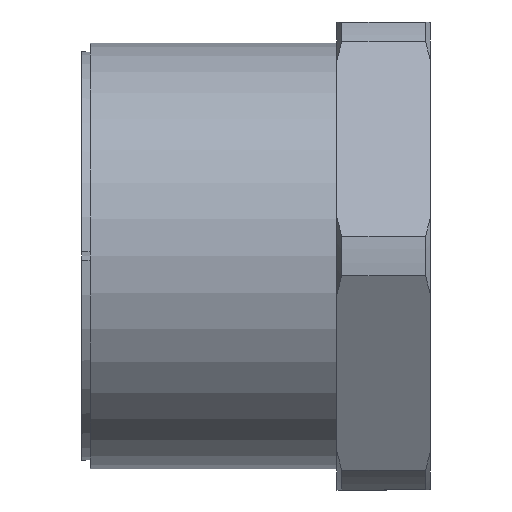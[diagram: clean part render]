
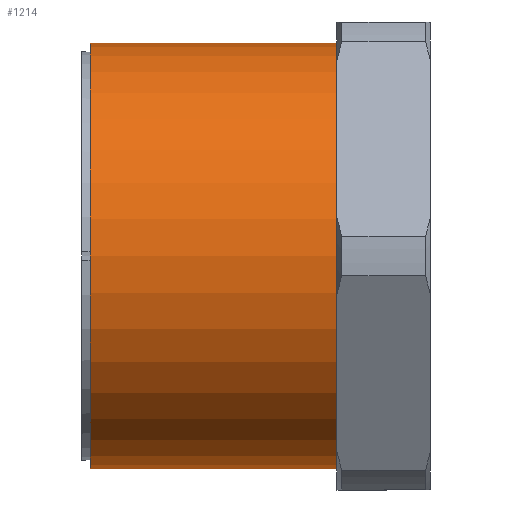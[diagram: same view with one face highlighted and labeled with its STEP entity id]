
A CAD part, front view. The second image highlights one B-rep face of the part: STEP entity #1214.
In plain terms, the highlighted cylindrical face has radius 25 mm (diameter 50 mm), a partial arc.
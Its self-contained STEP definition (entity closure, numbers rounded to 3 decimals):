
#98 = CYLINDRICAL_SURFACE ( 'NONE', #1307, 25. ) ;
#115 = FACE_OUTER_BOUND ( 'NONE', #1670, .T. ) ;
#181 = VERTEX_POINT ( 'NONE', #809 ) ;
#209 = VERTEX_POINT ( 'NONE', #312 ) ;
#217 = VERTEX_POINT ( 'NONE', #329 ) ;
#233 = VERTEX_POINT ( 'NONE', #301 ) ;
#295 = DIRECTION ( 'NONE',  ( 0., 0., 1. ) ) ;
#301 = CARTESIAN_POINT ( 'NONE',  ( 0., 0., -25. ) ) ;
#312 = CARTESIAN_POINT ( 'NONE',  ( 0., 0., 25. ) ) ;
#329 = CARTESIAN_POINT ( 'NONE',  ( 29., 0., -25. ) ) ;
#379 = DIRECTION ( 'NONE',  ( -1., 0., 0. ) ) ;
#458 = CARTESIAN_POINT ( 'NONE',  ( 0., 0., 0. ) ) ;
#460 = DIRECTION ( 'NONE',  ( -1., 0., 0. ) ) ;
#586 = DIRECTION ( 'NONE',  ( 0., 0., 1. ) ) ;
#587 = DIRECTION ( 'NONE',  ( -1., 0., 0. ) ) ;
#592 = CARTESIAN_POINT ( 'NONE',  ( 0., 0., -25. ) ) ;
#634 = DIRECTION ( 'NONE',  ( 0., 0., 1. ) ) ;
#639 = CARTESIAN_POINT ( 'NONE',  ( 0., 0., 0. ) ) ;
#662 = CARTESIAN_POINT ( 'NONE',  ( 0., 0., 25. ) ) ;
#667 = DIRECTION ( 'NONE',  ( -1., 0., 0. ) ) ;
#672 = CARTESIAN_POINT ( 'NONE',  ( 29., 0., 0. ) ) ;
#809 = CARTESIAN_POINT ( 'NONE',  ( 29., 0., 25. ) ) ;
#854 = DIRECTION ( 'NONE',  ( -1., 0., 0. ) ) ;
#875 = CIRCLE ( 'NONE', #1150, 25. ) ;
#1041 = ORIENTED_EDGE ( 'NONE', *, *, #1243, .F. ) ;
#1042 = ORIENTED_EDGE ( 'NONE', *, *, #1279, .T. ) ;
#1043 = ORIENTED_EDGE ( 'NONE', *, *, #1245, .T. ) ;
#1044 = ORIENTED_EDGE ( 'NONE', *, *, #1342, .F. ) ;
#1150 = AXIS2_PLACEMENT_3D ( 'NONE', #639, #379, #634 ) ;
#1154 = AXIS2_PLACEMENT_3D ( 'NONE', #672, #587, #586 ) ;
#1214 = ADVANCED_FACE ( 'NONE', ( #115 ), #98, .T. ) ;
#1243 = EDGE_CURVE ( 'NONE', #217, #233, #1491, .T. ) ;
#1245 = EDGE_CURVE ( 'NONE', #181, #209, #1485, .T. ) ;
#1279 = EDGE_CURVE ( 'NONE', #217, #181, #1684, .T. ) ;
#1307 = AXIS2_PLACEMENT_3D ( 'NONE', #458, #460, #295 ) ;
#1342 = EDGE_CURVE ( 'NONE', #233, #209, #875, .T. ) ;
#1483 = VECTOR ( 'NONE', #667, 1000. ) ;
#1485 = LINE ( 'NONE', #662, #1493 ) ;
#1491 = LINE ( 'NONE', #592, #1483 ) ;
#1493 = VECTOR ( 'NONE', #854, 1000. ) ;
#1670 = EDGE_LOOP ( 'NONE', ( #1041, #1042, #1043, #1044 ) ) ;
#1684 = CIRCLE ( 'NONE', #1154, 25. ) ;
